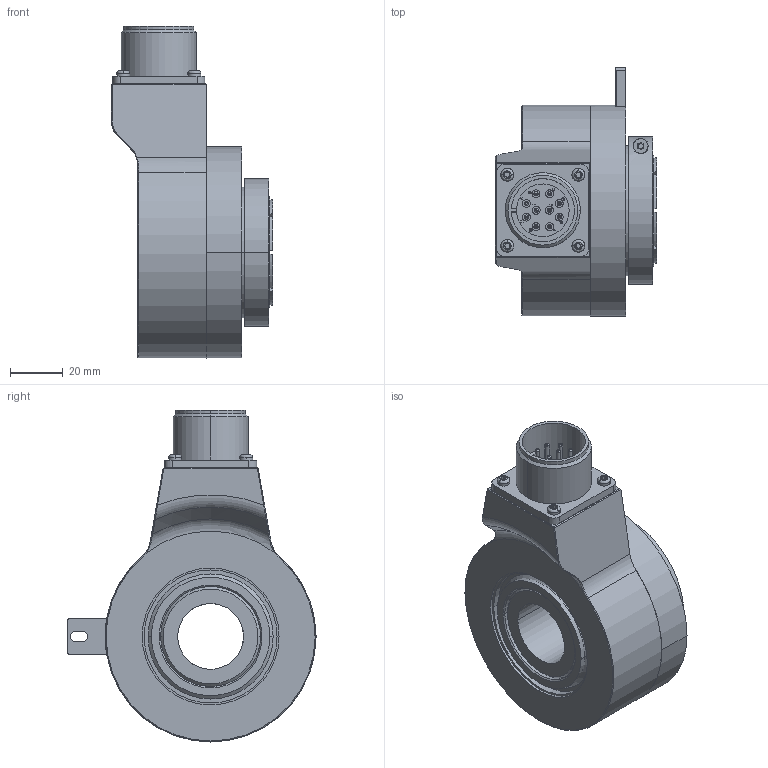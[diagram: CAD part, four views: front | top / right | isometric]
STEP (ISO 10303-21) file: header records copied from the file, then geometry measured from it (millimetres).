
FILE_DESCRIPTION (( 'STEP AP203' ), '1' );
FILE_NAME ('K80I.OXX.XXXXX.XH21825.6XRCE.step', '2025-12-09T10:03:26', ( '' ), ( '' ), 'SwSTEP 2.0', 'SolidWorks 2021', '' );
FILE_SCHEMA (( 'CONFIG_CONTROL_DESIGN' ));
Length unit declared in the file: millimetre
Products named in the file (1): K80I.OXX.XXXXX.XH21825.6XRCE
Bounding box: 61.2 x 94.28 x 126.08 mm (x, y, z)
Volume: 239733 mm3; surface area: 78943.9 mm2
Topology: 8 solids, 8 shells, 685 faces, 1754 edges, 1137 vertices
Faces by surface type: plane 301, cylinder 256, bspline 55, cone 41, torus 32
Entity records: 25339 total; most frequent: CARTESIAN_POINT 8594, ORIENTED_EDGE 3492, DIRECTION 3460, EDGE_CURVE 1746, AXIS2_PLACEMENT_3D 1269, VERTEX_POINT 1137, VECTOR 922, LINE 922
